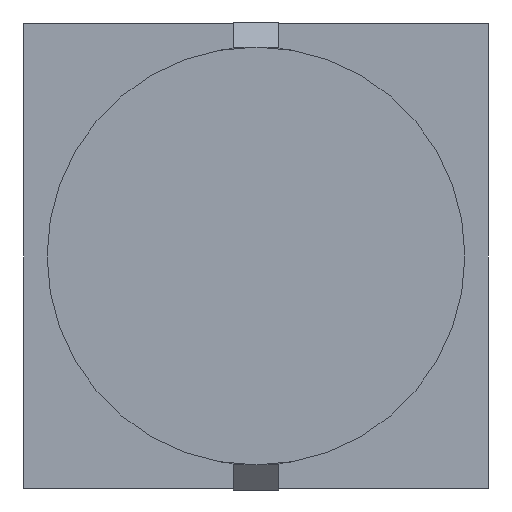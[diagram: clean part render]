
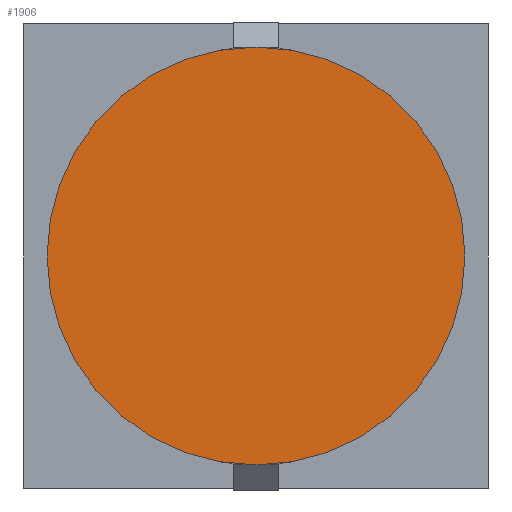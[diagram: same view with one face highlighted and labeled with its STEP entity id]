
A CAD part, front view. The second image highlights one B-rep face of the part: STEP entity #1906.
In plain terms, the highlighted planar face has unit normal (0, -1, 0).
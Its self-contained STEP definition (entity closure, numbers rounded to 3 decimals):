
#48 = DIRECTION ( 'NONE',  ( 0., -1., 0. ) ) ;
#128 = CARTESIAN_POINT ( 'NONE',  ( -34.411, -38.774, -92.443 ) ) ;
#254 = AXIS2_PLACEMENT_3D ( 'NONE', #1143, #1282, #370 ) ;
#266 = AXIS2_PLACEMENT_3D ( 'NONE', #128, #1200, #279 ) ;
#279 = DIRECTION ( 'NONE',  ( 0., 0., -1. ) ) ;
#325 = VERTEX_POINT ( 'NONE', #1925 ) ;
#370 = DIRECTION ( 'NONE',  ( 0., 0., -1. ) ) ;
#381 = ORIENTED_EDGE ( 'NONE', *, *, #1672, .T. ) ;
#465 = CARTESIAN_POINT ( 'NONE',  ( -34.411, -38.774, -92.443 ) ) ;
#678 = CARTESIAN_POINT ( 'NONE',  ( -34.411, -38.774, -109.093 ) ) ;
#864 = CIRCLE ( 'NONE', #1679, 16.65 ) ;
#979 = EDGE_CURVE ( 'NONE', #325, #1917, #864, .T. ) ;
#984 = PLANE ( 'NONE',  #254 ) ;
#1143 = CARTESIAN_POINT ( 'NONE',  ( -34.411, -38.774, -92.443 ) ) ;
#1200 = DIRECTION ( 'NONE',  ( 0., -1., 0. ) ) ;
#1269 = EDGE_LOOP ( 'NONE', ( #1806, #381 ) ) ;
#1282 = DIRECTION ( 'NONE',  ( 0., -1., 0. ) ) ;
#1594 = FACE_OUTER_BOUND ( 'NONE', #1269, .T. ) ;
#1672 = EDGE_CURVE ( 'NONE', #1917, #325, #1742, .T. ) ;
#1679 = AXIS2_PLACEMENT_3D ( 'NONE', #465, #48, #1691 ) ;
#1691 = DIRECTION ( 'NONE',  ( 0., 0., -1. ) ) ;
#1742 = CIRCLE ( 'NONE', #266, 16.65 ) ;
#1806 = ORIENTED_EDGE ( 'NONE', *, *, #979, .T. ) ;
#1906 = ADVANCED_FACE ( 'NONE', ( #1594 ), #984, .T. ) ;
#1917 = VERTEX_POINT ( 'NONE', #678 ) ;
#1925 = CARTESIAN_POINT ( 'NONE',  ( -34.411, -38.774, -75.793 ) ) ;
